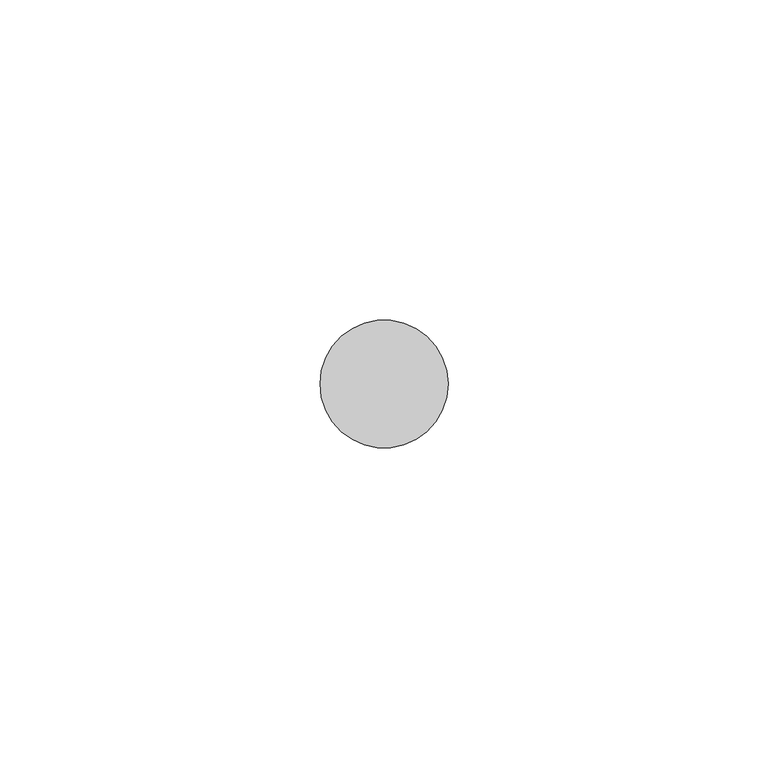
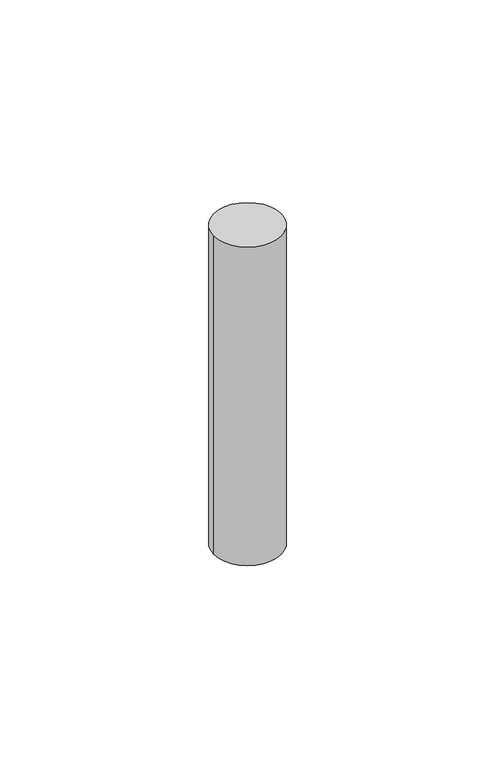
"""IFC4 building model written with IfcOpenShell, lengths in millimetres: pipe fitting geometry, СТ_Вл-3D_Подсчет_Шпилька : СТ_Вл-3D_Подсчет_Шпилька."""

import ifcopenshell
import ifcopenshell.guid

model = None  # the IFC model being written
_history = None  # IfcOwnerHistory: only IFC2X3 demands one
_inside = {}  # id of a spatial element -> (the spatial element, [elements in it])
_under = {}  # id of a project, library or spatial element -> (it, [spatial elements below it])
_declared = {}  # id of a project -> (the project, [libraries it declares])
_typed = {}  # id of a type object -> (the type object, [elements of that type])
_made_of = {}  # id of a material, layer set ... -> (it, [elements and type objects made of it])


def new_model(schema):
    """Start an empty IFC model of exactly this schema.

    Asked for "IFC4X3", IfcOpenShell would pick the latest addendum, in which some entities
    have other attributes; the version numbers below select the first issue.
    IFC2X3 requires an IfcOwnerHistory on every rooted entity: one is made here for all.
    """
    global model, _history
    if schema == "IFC4X3":
        model = ifcopenshell.file(schema_version=(4, 3, 0, 0))
    else:
        model = ifcopenshell.file(schema=schema)
    _inside.clear()
    _under.clear()
    _declared.clear()
    _typed.clear()
    _made_of.clear()
    _history = None
    if model.schema == "IFC2X3":
        org = make("IfcOrganization", Name="unknown")
        user = make(
            "IfcPersonAndOrganization",
            ThePerson=make("IfcPerson", FamilyName="unknown"),
            TheOrganization=org,
        )
        app = make(
            "IfcApplication",
            ApplicationDeveloper=org,
            Version="unknown",
            ApplicationFullName="unknown",
            ApplicationIdentifier="unknown",
        )
        _history = make(
            "IfcOwnerHistory",
            OwningUser=user,
            OwningApplication=app,
            ChangeAction="ADDED",
            CreationDate=0,
        )
    return model


def make(cls, **values):
    """One entity of the class cls with the attributes given. An attribute that is None is left unset."""
    return model.create_entity(
        cls, **{name: value for name, value in values.items() if value is not None}
    )


def rooted(cls, **values):
    """An entity with a GlobalId (a new one), such as an element, a storey or a relation."""
    return make(cls, GlobalId=ifcopenshell.guid.new(), OwnerHistory=_history, **values)


def si_unit(unit_type, name, prefix=None):
    """IfcSIUnit, for example si_unit("LENGTHUNIT", "METRE", prefix="MILLI")."""
    return make("IfcSIUnit", UnitType=unit_type, Prefix=prefix, Name=name)


def assignment(units):
    """IfcUnitAssignment: the units of a project."""
    return None if units is None else make("IfcUnitAssignment", Units=units)


def point(xyz):
    """IfcCartesianPoint."""
    return None if xyz is None else make("IfcCartesianPoint", Coordinates=xyz)


def direction(xyz):
    """IfcDirection."""
    return None if xyz is None else make("IfcDirection", DirectionRatios=xyz)


def frame(location, z_axis=None, x_axis=None):
    """IfcAxis2Placement3D, a coordinate frame: its origin and axes. An axis left out is left unset."""
    return make(
        "IfcAxis2Placement3D",
        Location=point(location),
        Axis=direction(z_axis),
        RefDirection=direction(x_axis),
    )


def frame_2d(location, x_axis=None):
    """IfcAxis2Placement2D, a coordinate frame in the plane: its origin and x axis."""
    return make(
        "IfcAxis2Placement2D", Location=point(location), RefDirection=direction(x_axis)
    )


def origin():
    """The frame at (0, 0, 0) with its axes left unset."""
    return frame((0.0, 0.0, 0.0))


def origin_with_axes():
    """The frame at (0, 0, 0) with the z axis (0, 0, 1) and the x axis (1, 0, 0) written out."""
    return frame((0.0, 0.0, 0.0), z_axis=(0.0, 0.0, 1.0), x_axis=(1.0, 0.0, 0.0))


def origin_2d():
    """The frame at (0, 0) in the plane with its x axis left unset."""
    return frame_2d((0.0, 0.0))


def place(relative_to, where):
    """IfcLocalPlacement: puts the frame where relative to a parent placement (None: the world)."""
    return make(
        "IfcLocalPlacement", PlacementRelTo=relative_to, RelativePlacement=where
    )


def context(
    kind, dimensions, precision=None, world=None, true_north=None, identifier=None
):
    """IfcGeometricRepresentationContext, for example the 3D "Model" context."""
    return make(
        "IfcGeometricRepresentationContext",
        ContextIdentifier=identifier,
        ContextType=kind,
        CoordinateSpaceDimension=dimensions,
        Precision=precision,
        WorldCoordinateSystem=world,
        TrueNorth=true_north,
    )


def project(units=None, contexts=None):
    """IfcProject with its units and contexts."""
    return rooted(
        "IfcProject",
        Name="project",
        RepresentationContexts=contexts,
        UnitsInContext=assignment(units),
    )


def spatial(cls, under=None, at=None, **own):
    """A site, building, storey or space (cls), placed at a placement, below another one or the project."""
    s = rooted(cls, ObjectPlacement=at, **own)
    if under is not None:
        _under.setdefault(under.id(), (under, []))[1].append(s)
    return s


def circle_curve(where, radius):
    """IfcCircle in the frame where."""
    return make("IfcCircle", Position=where, Radius=radius)


def trimmed(basis, trim1, trim2, sense, master):
    """IfcTrimmedCurve: the piece of a basis curve between two trims."""
    return make(
        "IfcTrimmedCurve",
        BasisCurve=basis,
        Trim1=trim1,
        Trim2=trim2,
        SenseAgreement=sense,
        MasterRepresentation=master,
    )


def segment(curve, same_sense, transition):
    """IfcCompositeCurveSegment."""
    return make(
        "IfcCompositeCurveSegment",
        Transition=transition,
        SameSense=same_sense,
        ParentCurve=curve,
    )


def composite_curve(segments, self_intersect=None):
    """IfcCompositeCurve: segments joined end to end."""
    return make("IfcCompositeCurve", Segments=segments, SelfIntersect=self_intersect)


def outline(outer, holes=None, kind="AREA"):
    """IfcArbitraryClosedProfileDef: a profile drawn as a closed curve; with holes, ...WithVoids."""
    if holes is None:
        return make("IfcArbitraryClosedProfileDef", ProfileType=kind, OuterCurve=outer)
    return make(
        "IfcArbitraryProfileDefWithVoids",
        ProfileType=kind,
        OuterCurve=outer,
        InnerCurves=holes,
    )


def extrude(swept, where, along, depth):
    """IfcExtrudedAreaSolid: the profile swept, set in the frame where, extruded along a direction by depth."""
    return make(
        "IfcExtrudedAreaSolid",
        SweptArea=swept,
        Position=where,
        ExtrudedDirection=direction(along),
        Depth=depth,
    )


def shape(context_of_items, identifier, shape_type, items):
    """IfcShapeRepresentation: the items that make up one representation, for example the "Body"."""
    return make(
        "IfcShapeRepresentation",
        ContextOfItems=context_of_items,
        RepresentationIdentifier=identifier,
        RepresentationType=shape_type,
        Items=items,
    )


def source(mapping_origin, context_of_items, identifier, shape_type, items):
    """IfcRepresentationMap: a shape defined once, which mapped items show again and again."""
    return make(
        "IfcRepresentationMap",
        MappingOrigin=mapping_origin,
        MappedRepresentation=shape(context_of_items, identifier, shape_type, items),
    )


def transform(
    local_origin,
    x_axis=None,
    y_axis=None,
    z_axis=None,
    scale=None,
    scale2=None,
    scale3=None,
    uniform=True,
):
    """IfcCartesianTransformationOperator3D, or its non-uniform kind. x_axis, y_axis, z_axis: its Axis1, 2, 3."""
    if uniform:
        return make(
            "IfcCartesianTransformationOperator3D",
            Axis1=direction(x_axis),
            Axis2=direction(y_axis),
            LocalOrigin=point(local_origin),
            Scale=scale,
            Axis3=direction(z_axis),
        )
    return make(
        "IfcCartesianTransformationOperator3DnonUniform",
        Axis1=direction(x_axis),
        Axis2=direction(y_axis),
        LocalOrigin=point(local_origin),
        Scale=scale,
        Axis3=direction(z_axis),
        Scale2=scale2,
        Scale3=scale3,
    )


def mapped(mapping_source, mapping_target):
    """IfcMappedItem: shows the shape of a source again, moved by a transform."""
    return make(
        "IfcMappedItem", MappingSource=mapping_source, MappingTarget=mapping_target
    )


def made_of(thing, what):
    """Note that an element or type object is made of a material, layer set ...; save() writes the relation."""
    if what is not None:
        _made_of.setdefault(what.id(), (what, []))[1].append(thing)
    return thing


def element(
    cls,
    number,
    at=None,
    inside=None,
    cuts=None,
    type_object=None,
    material=None,
    context=None,
    identifier="Body",
    shape_type=None,
    held_by="IfcProductDefinitionShape",
    body=None,
    shapes=None,
    **own,
):
    """One element of the class cls, such as IfcWall. Its Tag is "e" and its number.

    at: its placement. inside: the storey or other place that contains it. cuts: it is an
    opening in that element (IfcRelVoidsElement). A single representation is given by context,
    identifier, shape_type and body (its items); several are given by shapes. held_by: the class
    of the entity that holds the representations. save() writes the other relations.
    """
    e = rooted(cls, Tag="e%d" % number, ObjectPlacement=at, **own)
    if body is not None:
        shapes = [shape(context, identifier, shape_type, body)]
    if shapes is not None:
        e.Representation = make(held_by, Representations=shapes)
    if inside is not None:
        _inside.setdefault(inside.id(), (inside, []))[1].append(e)
    if cuts is not None:
        rooted(
            "IfcRelVoidsElement", RelatingBuildingElement=cuts, RelatedOpeningElement=e
        )
    if type_object is not None:
        _typed.setdefault(type_object.id(), (type_object, []))[1].append(e)
    return made_of(e, material)


def aggregate(whole, parts):
    """IfcRelAggregates: a whole, such as a stair, and the parts it consists of."""
    return rooted("IfcRelAggregates", RelatingObject=whole, RelatedObjects=parts)


def save(model, path):
    """Write the relations noted so far, then the file.

    IfcRelAggregates (storeys below a building ...), IfcRelContainedInSpatialStructure (elements
    in a storey), IfcRelDefinesByType, IfcRelAssociatesMaterial and IfcRelDeclares: one each for
    every whole, place, type object, material and project.
    """
    for whole, parts in _under.values():
        aggregate(whole, parts)
    for where, things in _inside.values():
        rooted(
            "IfcRelContainedInSpatialStructure",
            RelatedElements=things,
            RelatingStructure=where,
        )
    for kind, things in _typed.values():
        rooted("IfcRelDefinesByType", RelatedObjects=things, RelatingType=kind)
    for what, things in _made_of.values():
        rooted("IfcRelAssociatesMaterial", RelatedObjects=things, RelatingMaterial=what)
    for by, libraries in _declared.values():
        rooted("IfcRelDeclares", RelatingContext=by, RelatedDefinitions=libraries)
    model.write(path)


def pipe_fitting_9cc99f1b(model_context):
    return source(origin(), model_context, "Body", "SweptSolid", [
        extrude(outline(composite_curve([segment(trimmed(circle_curve(origin_2d(), 10.0), [point((-10.0, 0.0))], [point((10.0, 0.0))], False, "CARTESIAN"), True, "CONTINUOUS"), segment(trimmed(circle_curve(origin_2d(), 10.0), [point((10.0, 0.0))], [point((-10.0, 0.0))], False, "CARTESIAN"), True, "CONTINUOUS")], self_intersect=False)), origin_with_axes(), (0.0, 0.0, 1.0), 100.0),
    ])


if __name__ == "__main__":
    model = new_model("IFC4")
    model_context = context("Model", 3, world=origin())
    ifc_project = project(units=[si_unit("LENGTHUNIT", "METRE", prefix="MILLI")], contexts=[model_context])
    site = spatial("IfcSite", under=ifc_project)
    building = spatial("IfcBuilding", under=site)
    placement = place(None, origin())
    pipe_fitting_shape = pipe_fitting_9cc99f1b(model_context)
    element("IfcPipeFitting", 1, ObjectType="СТ_Вл-3D_Подсчет_Шпилька : СТ_Вл-3D_Подсчет_Шпилька", at=placement, inside=building, context=model_context, shape_type="MappedRepresentation", body=[
        mapped(pipe_fitting_shape, transform((0.0, 0.0, 0.0), x_axis=(1.0, 0.0, 0.0), y_axis=(0.0, 1.0, 0.0), z_axis=(0.0, 0.0, 1.0))),
    ])
    save(model, "model.ifc")
